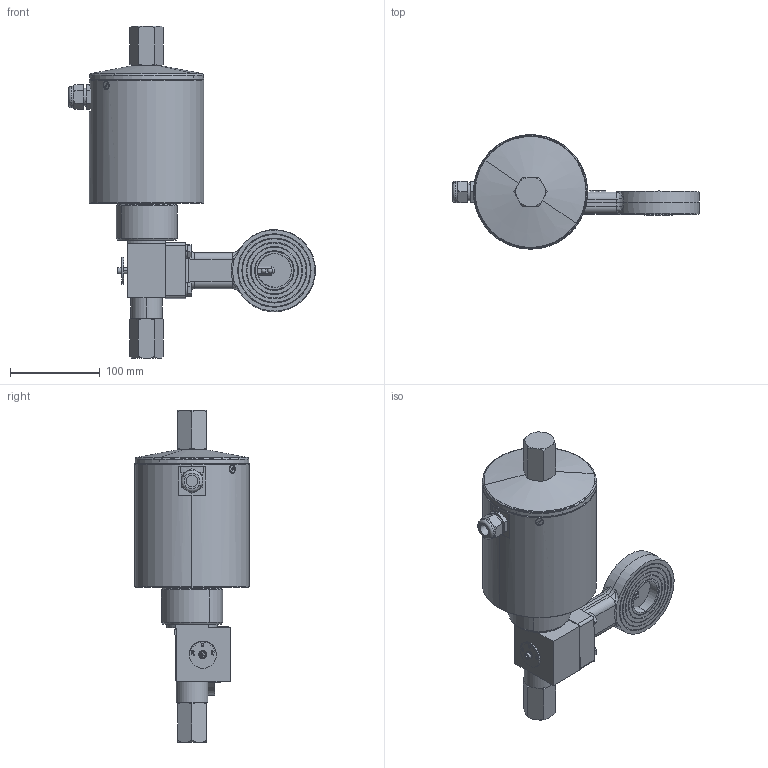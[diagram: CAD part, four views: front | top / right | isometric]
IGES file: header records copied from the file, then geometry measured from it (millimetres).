
Global section: file name: No Iges File Name specified; native system: AutoDesk Inventor R12.0; preprocessor: AutoDesk Inventor Iges Exporter R12.0; date: 20100914.143934; units: millimetre
Bounding box: 274.36 x 127 x 368.91 mm (x, y, z)
Volume: 2555961.1 mm3; surface area: 174725.8 mm2
Topology: 1 solids, 1 shells, 744 faces, 1925 edges, 1222 vertices
Faces by surface type: plane 444, bspline 98, cylinder 72, cone 72, revolution 40, torus 14, sphere 4
